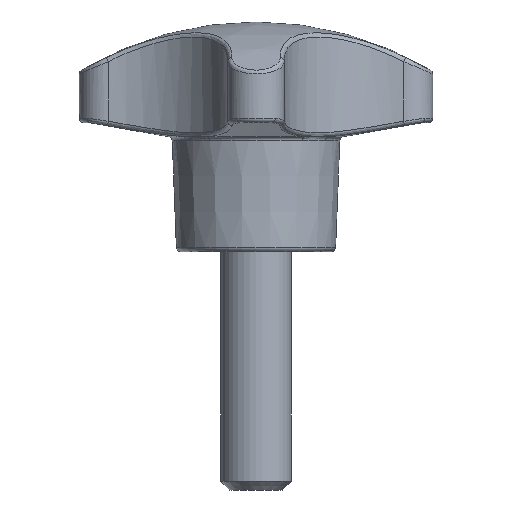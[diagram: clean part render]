
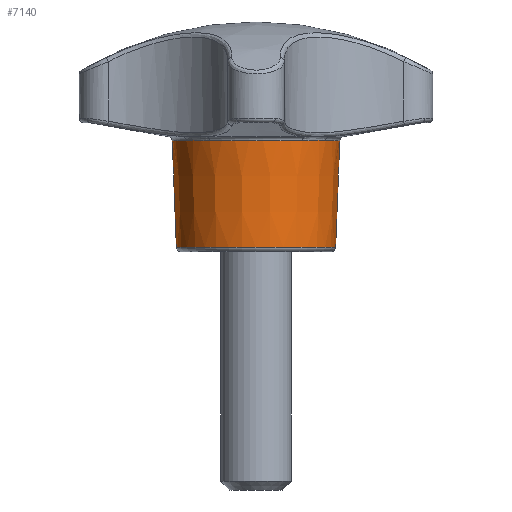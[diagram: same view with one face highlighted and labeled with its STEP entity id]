
A CAD part, front view. The second image highlights one B-rep face of the part: STEP entity #7140.
In plain terms, the highlighted conical face has half-angle 2.212 degrees and reference radius 9.5 mm.
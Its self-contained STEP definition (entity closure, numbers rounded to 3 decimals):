
#1256 = CARTESIAN_POINT ( 'NONE',  ( -9.019, 0., 0.481 ) ) ;
#1304 = CARTESIAN_POINT ( 'NONE',  ( 9.019, 0., 0.481 ) ) ;
#1371 = CARTESIAN_POINT ( 'NONE',  ( -9.5, 0., 12.944 ) ) ;
#1372 = LINE ( 'NONE', #1371, #1405 ) ;
#1405 = VECTOR ( 'NONE', #1419, 1000. ) ;
#1419 = DIRECTION ( 'NONE',  ( -0.039, 0., 0.999 ) ) ;
#1561 = CARTESIAN_POINT ( 'NONE',  ( -9.484, 0., 12.541 ) ) ;
#2233 = CIRCLE ( 'NONE', #2270, 9.019 ) ;
#2234 = DIRECTION ( 'NONE',  ( 0., 0., 1. ) ) ;
#2236 = CARTESIAN_POINT ( 'NONE',  ( 0., 0., 0.481 ) ) ;
#2267 = CIRCLE ( 'NONE', #2372, 9.484 ) ;
#2269 = DIRECTION ( 'NONE',  ( -1., 0., 0. ) ) ;
#2270 = AXIS2_PLACEMENT_3D ( 'NONE', #2236, #2234, #2269 ) ;
#2287 = CIRCLE ( 'NONE', #2305, 9.484 ) ;
#2288 = AXIS2_PLACEMENT_3D ( 'NONE', #2292, #2291, #2290 ) ;
#2290 = DIRECTION ( 'NONE',  ( 1., 0., 0. ) ) ;
#2291 = DIRECTION ( 'NONE',  ( 0., 0., 1. ) ) ;
#2292 = CARTESIAN_POINT ( 'NONE',  ( 0., 0., 12.944 ) ) ;
#2293 = CARTESIAN_POINT ( 'NONE',  ( 5.27, -7.885, 12.541 ) ) ;
#2305 = AXIS2_PLACEMENT_3D ( 'NONE', #2334, #2333, #2332 ) ;
#2306 = CARTESIAN_POINT ( 'NONE',  ( -7.892, -5.261, 12.541 ) ) ;
#2309 = CARTESIAN_POINT ( 'NONE',  ( 7.892, -5.261, 12.541 ) ) ;
#2321 = CARTESIAN_POINT ( 'NONE',  ( -5.27, -7.885, 12.541 ) ) ;
#2322 = CONICAL_SURFACE ( 'NONE', #2288, 9.5, 0.039 ) ;
#2323 = FACE_OUTER_BOUND ( 'NONE', #7111, .T. ) ;
#2332 = DIRECTION ( 'NONE',  ( 1., 0., 0. ) ) ;
#2333 = DIRECTION ( 'NONE',  ( 0., 0., -1. ) ) ;
#2334 = CARTESIAN_POINT ( 'NONE',  ( 0., 0., 12.541 ) ) ;
#2348 = CARTESIAN_POINT ( 'NONE',  ( -5.27, -7.885, 12.541 ) ) ;
#2349 = CARTESIAN_POINT ( 'NONE',  ( 0., 0., 12.541 ) ) ;
#2350 = B_SPLINE_CURVE_WITH_KNOTS ( 'NONE', 3,
 ( #2348, #2390, #2389, #2388, #2387, #2386, #2385, #2384, #2383, #2382 ),
 .UNSPECIFIED., .F., .F.,
 ( 4, 2, 2, 2, 4 ),
 ( 0., 0.001, 0.002, 0.003, 0.004 ),
 .UNSPECIFIED. ) ;
#2353 = DIRECTION ( 'NONE',  ( 1., 0., 0. ) ) ;
#2354 = DIRECTION ( 'NONE',  ( 0., 0., -1. ) ) ;
#2371 = CARTESIAN_POINT ( 'NONE',  ( 0., 0., 12.541 ) ) ;
#2372 = AXIS2_PLACEMENT_3D ( 'NONE', #2371, #2354, #2353 ) ;
#2373 = AXIS2_PLACEMENT_3D ( 'NONE', #2349, #2402, #2401 ) ;
#2381 = CIRCLE ( 'NONE', #2373, 9.484 ) ;
#2382 = CARTESIAN_POINT ( 'NONE',  ( -7.892, -5.261, 12.541 ) ) ;
#2383 = CARTESIAN_POINT ( 'NONE',  ( -7.718, -5.521, 12.541 ) ) ;
#2384 = CARTESIAN_POINT ( 'NONE',  ( -7.534, -5.771, 12.559 ) ) ;
#2385 = CARTESIAN_POINT ( 'NONE',  ( -7.141, -6.253, 12.59 ) ) ;
#2386 = CARTESIAN_POINT ( 'NONE',  ( -6.932, -6.485, 12.603 ) ) ;
#2387 = CARTESIAN_POINT ( 'NONE',  ( -6.49, -6.926, 12.603 ) ) ;
#2388 = CARTESIAN_POINT ( 'NONE',  ( -6.26, -7.134, 12.59 ) ) ;
#2389 = CARTESIAN_POINT ( 'NONE',  ( -5.78, -7.527, 12.559 ) ) ;
#2390 = CARTESIAN_POINT ( 'NONE',  ( -5.53, -7.712, 12.541 ) ) ;
#2401 = DIRECTION ( 'NONE',  ( 1., 0., 0. ) ) ;
#2402 = DIRECTION ( 'NONE',  ( 0., 0., -1. ) ) ;
#2419 = CARTESIAN_POINT ( 'NONE',  ( 5.27, -7.885, 12.541 ) ) ;
#2420 = CARTESIAN_POINT ( 'NONE',  ( 5.53, -7.712, 12.541 ) ) ;
#2421 = CARTESIAN_POINT ( 'NONE',  ( 5.78, -7.527, 12.559 ) ) ;
#2422 = CARTESIAN_POINT ( 'NONE',  ( 6.261, -7.133, 12.59 ) ) ;
#2423 = CARTESIAN_POINT ( 'NONE',  ( 6.493, -6.924, 12.603 ) ) ;
#2424 = CARTESIAN_POINT ( 'NONE',  ( 6.934, -6.482, 12.603 ) ) ;
#2425 = CARTESIAN_POINT ( 'NONE',  ( 7.142, -6.252, 12.59 ) ) ;
#2426 = CARTESIAN_POINT ( 'NONE',  ( 7.534, -5.771, 12.559 ) ) ;
#2427 = CARTESIAN_POINT ( 'NONE',  ( 7.718, -5.521, 12.541 ) ) ;
#2428 = CARTESIAN_POINT ( 'NONE',  ( 7.892, -5.261, 12.541 ) ) ;
#2431 = B_SPLINE_CURVE_WITH_KNOTS ( 'NONE', 3,
 ( #2428, #2427, #2426, #2425, #2424, #2423, #2422, #2421, #2420, #2419 ),
 .UNSPECIFIED., .F., .F.,
 ( 4, 2, 2, 2, 4 ),
 ( 0., 0.001, 0.002, 0.003, 0.004 ),
 .UNSPECIFIED. ) ;
#5403 = EDGE_CURVE ( 'NONE', #5767, #5474, #6300, .T. ) ;
#5474 = VERTEX_POINT ( 'NONE', #6669 ) ;
#5755 = VERTEX_POINT ( 'NONE', #1256 ) ;
#5767 = VERTEX_POINT ( 'NONE', #1304 ) ;
#5797 = EDGE_CURVE ( 'NONE', #5755, #5816, #1372, .T. ) ;
#5816 = VERTEX_POINT ( 'NONE', #1561 ) ;
#6299 = CARTESIAN_POINT ( 'NONE',  ( 9.5, 0., 12.944 ) ) ;
#6300 = LINE ( 'NONE', #6299, #6627 ) ;
#6591 = DIRECTION ( 'NONE',  ( 0.039, 0., 0.999 ) ) ;
#6627 = VECTOR ( 'NONE', #6591, 1000. ) ;
#6669 = CARTESIAN_POINT ( 'NONE',  ( 9.484, 0., 12.541 ) ) ;
#7111 = EDGE_LOOP ( 'NONE', ( #7142, #7146, #7139, #7134, #7203, #7156, #7185, #7119 ) ) ;
#7113 = EDGE_CURVE ( 'NONE', #5755, #5767, #2233, .T. ) ;
#7119 = ORIENTED_EDGE ( 'NONE', *, *, #7186, .T. ) ;
#7131 = VERTEX_POINT ( 'NONE', #2309 ) ;
#7134 = ORIENTED_EDGE ( 'NONE', *, *, #7144, .T. ) ;
#7135 = VERTEX_POINT ( 'NONE', #2293 ) ;
#7136 = VERTEX_POINT ( 'NONE', #2321 ) ;
#7138 = VERTEX_POINT ( 'NONE', #2306 ) ;
#7139 = ORIENTED_EDGE ( 'NONE', *, *, #5403, .T. ) ;
#7140 = ADVANCED_FACE ( 'NONE', ( #2323 ), #2322, .T. ) ;
#7142 = ORIENTED_EDGE ( 'NONE', *, *, #5797, .F. ) ;
#7144 = EDGE_CURVE ( 'NONE', #5474, #7131, #2287, .T. ) ;
#7146 = ORIENTED_EDGE ( 'NONE', *, *, #7113, .T. ) ;
#7156 = ORIENTED_EDGE ( 'NONE', *, *, #7200, .T. ) ;
#7185 = ORIENTED_EDGE ( 'NONE', *, *, #7192, .T. ) ;
#7186 = EDGE_CURVE ( 'NONE', #7138, #5816, #2267, .T. ) ;
#7192 = EDGE_CURVE ( 'NONE', #7136, #7138, #2350, .T. ) ;
#7200 = EDGE_CURVE ( 'NONE', #7135, #7136, #2381, .T. ) ;
#7203 = ORIENTED_EDGE ( 'NONE', *, *, #7206, .T. ) ;
#7206 = EDGE_CURVE ( 'NONE', #7131, #7135, #2431, .T. ) ;
